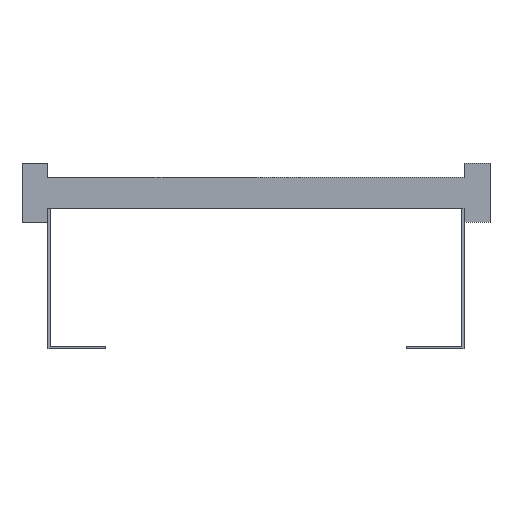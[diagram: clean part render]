
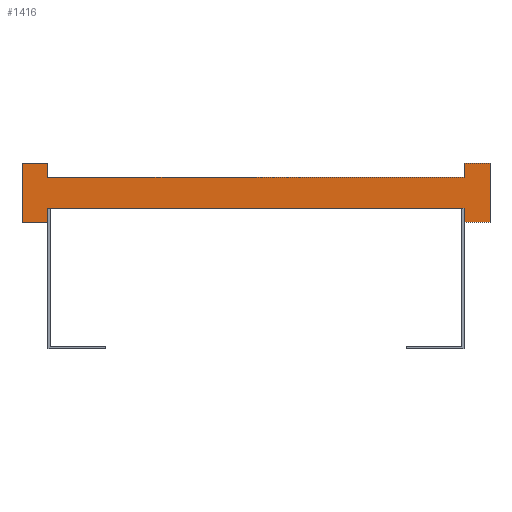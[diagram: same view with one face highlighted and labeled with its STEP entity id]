
A CAD part, front view. The second image highlights one B-rep face of the part: STEP entity #1416.
In plain terms, the highlighted planar face has unit normal (0, -1, 0).
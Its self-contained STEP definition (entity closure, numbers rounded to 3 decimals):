
#113=DIRECTION('',(0.,0.,1.));
#114=VECTOR('',#113,13.5);
#115=CARTESIAN_POINT('',(200.,0.,-28.5));
#116=LINE('',#115,#114);
#117=DIRECTION('',(0.,0.,-1.));
#118=VECTOR('',#117,13.5);
#119=CARTESIAN_POINT('',(-200.,0.,-15.));
#120=LINE('',#119,#118);
#121=DIRECTION('',(-1.,0.,0.));
#122=VECTOR('',#121,25.);
#123=CARTESIAN_POINT('',(-200.,0.,-28.5));
#124=LINE('',#123,#122);
#125=DIRECTION('',(0.,0.,1.));
#126=VECTOR('',#125,57.);
#127=CARTESIAN_POINT('',(-225.,0.,-28.5));
#128=LINE('',#127,#126);
#129=DIRECTION('',(1.,0.,0.));
#130=VECTOR('',#129,25.);
#131=CARTESIAN_POINT('',(-225.,0.,28.5));
#132=LINE('',#131,#130);
#133=DIRECTION('',(0.,0.,-1.));
#134=VECTOR('',#133,13.5);
#135=CARTESIAN_POINT('',(-200.,0.,28.5));
#136=LINE('',#135,#134);
#137=DIRECTION('',(0.,0.,1.));
#138=VECTOR('',#137,13.5);
#139=CARTESIAN_POINT('',(200.,0.,15.));
#140=LINE('',#139,#138);
#141=DIRECTION('',(1.,0.,0.));
#142=VECTOR('',#141,25.);
#143=CARTESIAN_POINT('',(200.,0.,28.5));
#144=LINE('',#143,#142);
#145=DIRECTION('',(0.,0.,-1.));
#146=VECTOR('',#145,57.);
#147=CARTESIAN_POINT('',(225.,0.,28.5));
#148=LINE('',#147,#146);
#149=DIRECTION('',(-1.,0.,0.));
#150=VECTOR('',#149,25.);
#151=CARTESIAN_POINT('',(225.,0.,-28.5));
#152=LINE('',#151,#150);
#1057=DIRECTION('',(1.,0.,0.));
#1058=VECTOR('',#1057,400.);
#1059=CARTESIAN_POINT('',(-200.,0.,-15.));
#1060=LINE('',#1059,#1058);
#1069=DIRECTION('',(1.,0.,0.));
#1070=VECTOR('',#1069,400.);
#1071=CARTESIAN_POINT('',(-200.,0.,15.));
#1072=LINE('',#1071,#1070);
#1073=CARTESIAN_POINT('',(-225.,0.,28.5));
#1074=CARTESIAN_POINT('',(-200.,0.,28.5));
#1075=VERTEX_POINT('',#1073);
#1076=VERTEX_POINT('',#1074);
#1077=CARTESIAN_POINT('',(-200.,0.,-28.5));
#1078=CARTESIAN_POINT('',(-225.,0.,-28.5));
#1079=VERTEX_POINT('',#1077);
#1080=VERTEX_POINT('',#1078);
#1081=CARTESIAN_POINT('',(225.,0.,28.5));
#1082=CARTESIAN_POINT('',(225.,0.,-28.5));
#1083=VERTEX_POINT('',#1081);
#1084=VERTEX_POINT('',#1082);
#1085=CARTESIAN_POINT('',(200.,0.,-28.5));
#1086=VERTEX_POINT('',#1085);
#1087=CARTESIAN_POINT('',(200.,0.,28.5));
#1088=VERTEX_POINT('',#1087);
#1105=CARTESIAN_POINT('',(-200.,0.,-15.));
#1107=VERTEX_POINT('',#1105);
#1109=CARTESIAN_POINT('',(-200.,0.,15.));
#1111=VERTEX_POINT('',#1109);
#1113=CARTESIAN_POINT('',(200.,0.,-15.));
#1115=VERTEX_POINT('',#1113);
#1117=CARTESIAN_POINT('',(200.,0.,15.));
#1119=VERTEX_POINT('',#1117);
#1385=CARTESIAN_POINT('',(0.,0.,0.));
#1386=DIRECTION('',(0.,1.,0.));
#1387=DIRECTION('',(1.,0.,0.));
#1388=AXIS2_PLACEMENT_3D('',#1385,#1386,#1387);
#1389=PLANE('',#1388);
#1391=ORIENTED_EDGE('',*,*,#1390,.T.);
#1393=ORIENTED_EDGE('',*,*,#1392,.F.);
#1395=ORIENTED_EDGE('',*,*,#1394,.T.);
#1397=ORIENTED_EDGE('',*,*,#1396,.T.);
#1399=ORIENTED_EDGE('',*,*,#1398,.T.);
#1401=ORIENTED_EDGE('',*,*,#1400,.T.);
#1403=ORIENTED_EDGE('',*,*,#1402,.T.);
#1405=ORIENTED_EDGE('',*,*,#1404,.T.);
#1407=ORIENTED_EDGE('',*,*,#1406,.T.);
#1409=ORIENTED_EDGE('',*,*,#1408,.T.);
#1411=ORIENTED_EDGE('',*,*,#1410,.T.);
#1413=ORIENTED_EDGE('',*,*,#1412,.T.);
#1414=EDGE_LOOP('',(#1391,#1393,#1395,#1397,#1399,#1401,#1403,#1405,#1407,#1409,
#1411,#1413));
#1415=FACE_OUTER_BOUND('',#1414,.F.);
#1390=EDGE_CURVE('',#1086,#1115,#116,.T.);
#1392=EDGE_CURVE('',#1107,#1115,#1060,.T.);
#1394=EDGE_CURVE('',#1107,#1079,#120,.T.);
#1396=EDGE_CURVE('',#1079,#1080,#124,.T.);
#1398=EDGE_CURVE('',#1080,#1075,#128,.T.);
#1400=EDGE_CURVE('',#1075,#1076,#132,.T.);
#1402=EDGE_CURVE('',#1076,#1111,#136,.T.);
#1404=EDGE_CURVE('',#1111,#1119,#1072,.T.);
#1406=EDGE_CURVE('',#1119,#1088,#140,.T.);
#1408=EDGE_CURVE('',#1088,#1083,#144,.T.);
#1410=EDGE_CURVE('',#1083,#1084,#148,.T.);
#1412=EDGE_CURVE('',#1084,#1086,#152,.T.);
#1416=ADVANCED_FACE('',(#1415),#1389,.F.);
